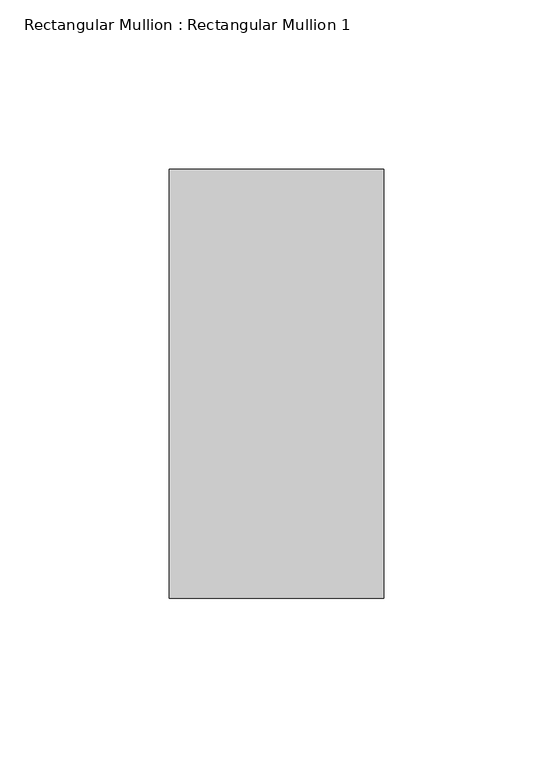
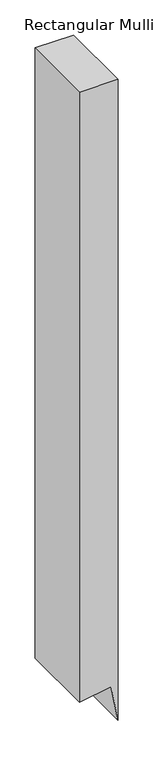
"""IFC4 building model written with IfcOpenShell, lengths in millimetres: member geometry, Rectangular Mullion : Rectangular Mullion 1."""

from ifc_helpers import new_model, si_unit, frame, origin, place, context, project, spatial, polyline, outline, extrude, source, transform, mapped, element, save


def rectangular_mullion_rectangular_mullion_1_6a99a7d8(model_context):
    return source(origin(), model_context, "Body", "SweptSolid", [
        extrude(outline(polyline([(0.0, 0.0), (0.0, -63.5), (-1063.2887377, -63.5), (-1054.036272, -11.0266593), (-1116.5715643, 0.0), (0.0, 0.0)])), frame((0.0, -63.5, 0.0), z_axis=(0.0, 1.0, 0.0), x_axis=(0.0, 0.0, 1.0)), (0.0, 0.0, 1.0), 127.0),
    ])


if __name__ == "__main__":
    model = new_model("IFC4")
    model_context = context("Model", 3, world=origin())
    ifc_project = project(units=[si_unit("LENGTHUNIT", "METRE", prefix="MILLI")], contexts=[model_context])
    site = spatial("IfcSite", under=ifc_project)
    building = spatial("IfcBuilding", under=site)
    placement = place(None, origin())
    rectangular_mullion_rectangular_mullion_1_shape = rectangular_mullion_rectangular_mullion_1_6a99a7d8(model_context)
    element("IfcMember", 1, ObjectType="Rectangular Mullion : Rectangular Mullion 1", at=placement, inside=building, context=model_context, shape_type="MappedRepresentation", body=[
        mapped(rectangular_mullion_rectangular_mullion_1_shape, transform((0.0, 0.0, 0.0), x_axis=(1.0, 0.0, 0.0), y_axis=(0.0, 1.0, 0.0), z_axis=(0.0, 0.0, 1.0))),
    ])
    save(model, "model.ifc")
